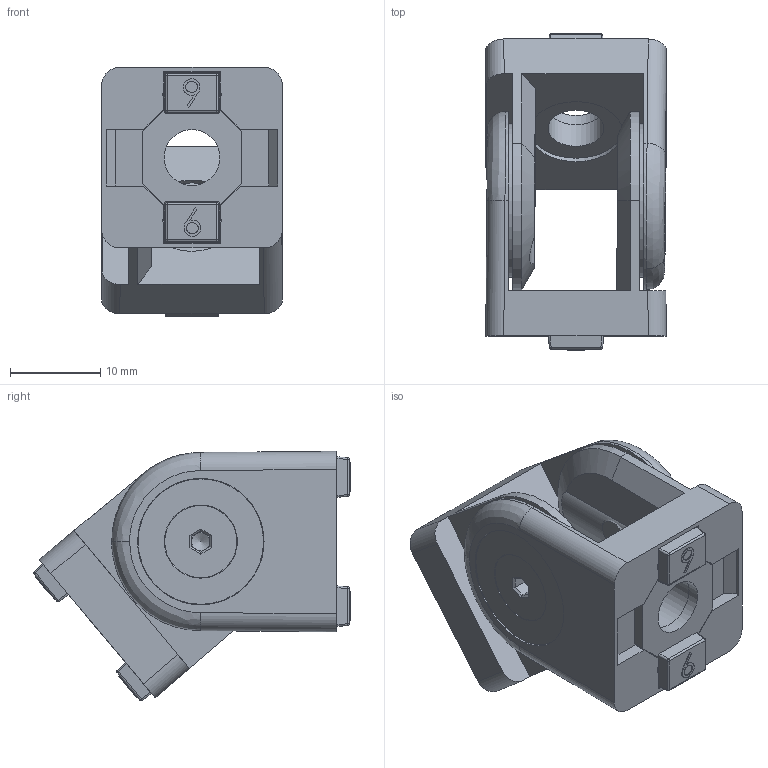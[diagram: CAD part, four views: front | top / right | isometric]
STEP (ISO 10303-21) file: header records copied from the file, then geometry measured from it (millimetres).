
FILE_DESCRIPTION((''),'2;1');
FILE_NAME('E:\catalogue and flyer\Profile catalogue 2015\Accessories JE info\Accessories-JE step file 31MAr16\JE-KJ2020-6.stp','2016-04-07T11:26:17',('h029'),(''),'Autodesk Inventor 11','Autodesk Inventor 11','');
FILE_SCHEMA(('AUTOMOTIVE_DESIGN { 1 0 10303 214 1 1 1 1 }'));
Length unit declared in the file: millimetre
Products named in the file (9): JE-KJ2020-6; 1#; 3#; 4#; 6#; 7#; 8#; 9#; 10#
Assembly tree (10 placements, depth 2):
  JE-KJ2020-6
    1#
    3#  x2
    4#  x2
    6#
    7#
    8#
    9#
    10#
Bounding box: 20 x 35.05 x 27.62 mm (x, y, z)
Volume: 6733 mm3; surface area: 7789.2 mm2
Topology: 10 solids, 10 shells, 430 faces, 1052 edges, 658 vertices
Faces by surface type: plane 248, cylinder 88, bspline 40, torus 20, cone 18, sphere 16
Full cylindrical faces by diameter (mm): 1.5 x8, 4 x2, 6.2 x6, 8 x2, 8.1 x2, 10.3 x2, 10.9 x2, 11 x4, 13.9 x2, 14 x2, 17 x2, 17.1 x2
Entity records: 15126 total; most frequent: CARTESIAN_POINT 6460, ORIENTED_EDGE 1712, DIRECTION 1638, EDGE_CURVE 856, VERTEX_POINT 572, AXIS2_PLACEMENT_3D 560, VECTOR 518, LINE 518
